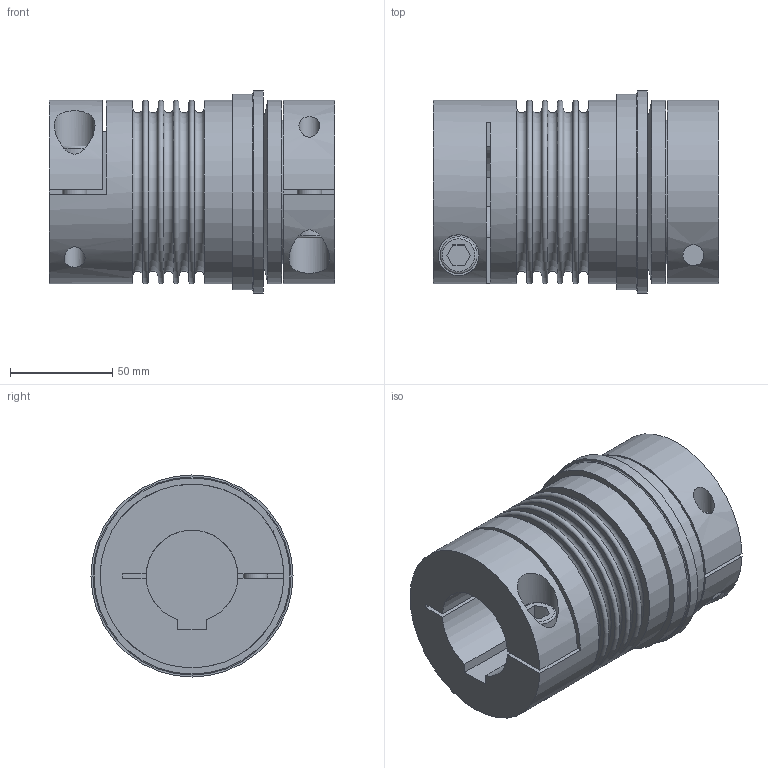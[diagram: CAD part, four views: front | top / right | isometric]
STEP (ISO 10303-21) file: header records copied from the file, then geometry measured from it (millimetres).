
FILE_DESCRIPTION(/* description */ ('STEP AP214'),/* implementation_level */ '2;1');
FILE_NAME(/* name */ 'C:\Diequa Files\DieQua Coupling\TB2\STP\TB2.200.140.WDG.#.#.stp',/* time_stamp */ '2019-04-26T10:42:11-05:00',/* author */ ('DiequaCAD'),/* organization */ (''),/* preprocessor_version */ 'ST-DEVELOPER v18',/* originating_system */ 'Autodesk Inventor 2020',/* authorisation */ ' ');
FILE_SCHEMA (('AUTOMOTIVE_DESIGN { 1 0 10303 214 3 1 1 }'));
Length unit declared in the file: millimetre
Products named in the file (1): TB2.200.140.WDG.#.#
Bounding box: 140 x 99 x 99 mm (x, y, z)
Volume: 713081.7 mm3; surface area: 100754.2 mm2
Topology: 1 solids, 1 shells, 90 faces, 212 edges, 148 vertices
Faces by surface type: plane 57, cylinder 20, torus 12, cone 1
Full cylindrical faces by diameter (mm): 10.2 x2, 12 x2, 13.5 x2, 18 x2, 20 x2, 71 x1, 90 x3, 96 x1, 99 x1
Entity records: 2857 total; most frequent: CARTESIAN_POINT 603, DIRECTION 491, ORIENTED_EDGE 424, EDGE_CURVE 212, AXIS2_PLACEMENT_3D 194, VERTEX_POINT 148, EDGE_LOOP 118, LINE 103
